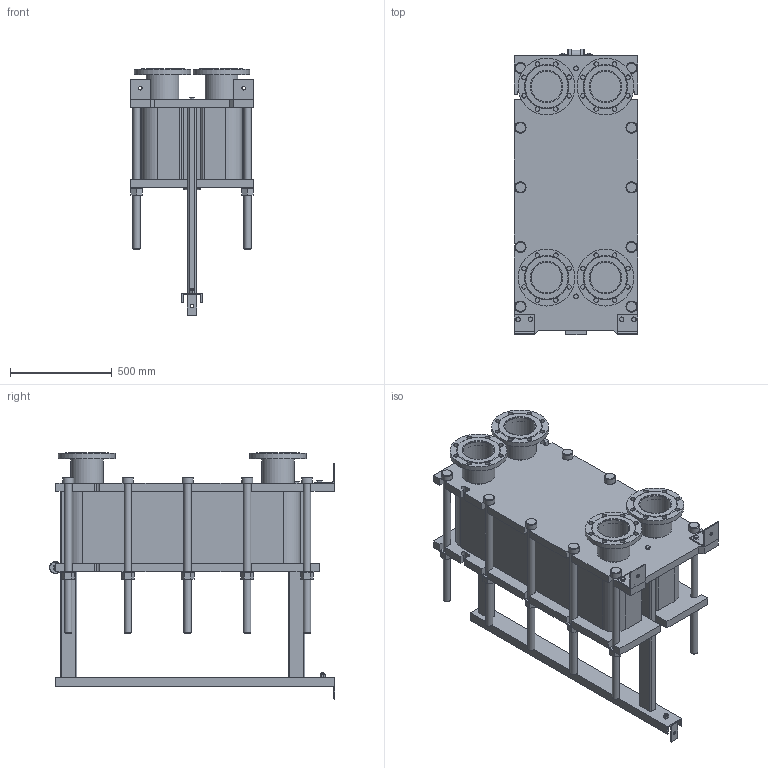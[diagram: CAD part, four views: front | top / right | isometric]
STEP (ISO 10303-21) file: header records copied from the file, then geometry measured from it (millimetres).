
FILE_DESCRIPTION(/* description */ (''),/* implementation_level */ '2;1');
FILE_NAME(/* name */ 'C:\Users\zhuro\Desktop\ENCO\TO\ЭН-041\ЭН-0,5-041-103-1.stp',/* time_stamp */ '2022-06-06T10:58:18+03:00',/* author */ ('zhuro'),/* organization */ (''),/* preprocessor_version */ 'ST-DEVELOPER v18.1',/* originating_system */ 'Autodesk Inventor 2022',/* authorisation */ '');
FILE_SCHEMA (('AUTOMOTIVE_DESIGN { 1 0 10303 214 3 1 1 }'));
Length unit declared in the file: millimetre
Products named in the file (1): ЭН-0,5-041-103-1
Bounding box: 610 x 1406.5 x 1212.5 mm (x, y, z)
Volume: 280546056.6 mm3; surface area: 9090658.7 mm2
Topology: 52 solids, 52 shells, 711 faces, 1696 edges, 1094 vertices
Faces by surface type: plane 487, cylinder 177, cone 41, torus 6
Full cylindrical faces by diameter (mm): 8 x4, 10 x2, 16 x8, 18 x3, 22 x32, 36 x24, 50 x1, 54 x10, 60 x12, 151 x4, 161 x8, 280 x4
Entity records: 22667 total; most frequent: CARTESIAN_POINT 5230, DIRECTION 3644, ORIENTED_EDGE 3392, EDGE_CURVE 1696, AXIS2_PLACEMENT_3D 1272, LINE 1100, VECTOR 1100, VERTEX_POINT 1094
